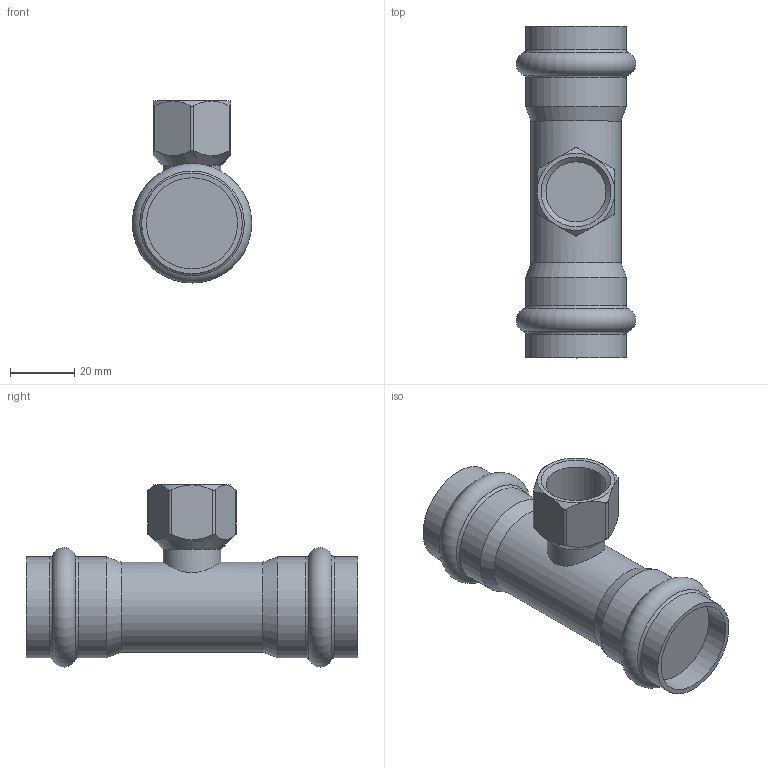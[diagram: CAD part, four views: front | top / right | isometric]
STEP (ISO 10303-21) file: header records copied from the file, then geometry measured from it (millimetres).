
FILE_DESCRIPTION(('STEP AP203'), '1');
FILE_NAME('VTi.932.I.280428', '', ('UNSPECIFIED'), ('UNSPECIFIED'), 'C3D Converter', 'C3D Toolkit', '');
FILE_SCHEMA(('CONFIG_CONTROL_DESIGN'));
Length unit declared in the file: millimetre
Bounding box: 37.1 x 103 x 56.55 mm (x, y, z)
Volume: 72476.9 mm3; surface area: 16248.5 mm2
Topology: 1 solids, 1 shells, 43 faces, 94 edges, 56 vertices
Faces by surface type: cylinder 15, plane 12, cone 10, torus 6
Full cylindrical faces by diameter (mm): 18 x1, 18.632 x1, 28 x1, 28.3 x2, 31.26 x4
Entity records: 2447 total; most frequent: CARTESIAN_POINT 1593, DIRECTION 156, ORIENTED_EDGE 148, EDGE_CURVE 74, AXIS2_PLACEMENT_3D 72, EDGE_LOOP 66, VERTEX_POINT 56, ADVANCED_FACE 43
